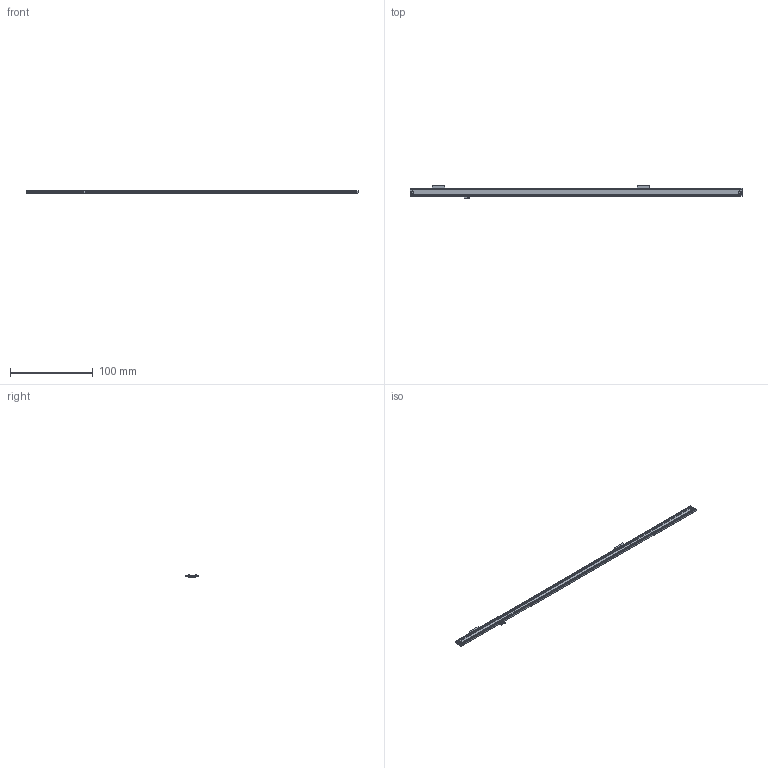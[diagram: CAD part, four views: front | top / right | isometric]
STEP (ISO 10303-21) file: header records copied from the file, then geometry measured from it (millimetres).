
FILE_DESCRIPTION (( 'STEP AP203' ), '1' );
FILE_NAME ('LGR-8´øµ¼¹ìRUSÕ¤³ß.STEP', '2024-03-27T06:45:01', ( '' ), ( '' ), 'SwSTEP 2.0', 'SolidWorks 2016', '' );
FILE_SCHEMA (( 'CONFIG_CONTROL_DESIGN' ));
Length unit declared in the file: millimetre
Products named in the file (9): RU2-REF-M 埻萸棠沺; RU2-LMT-R 邧癹弇棠沺; LGR-8湍絳寢RUS掑喜; 埻萸棠沺; 8mm 詩掑喜絳寢; 8掑喜; 棠沺; hex socket set screws with cone point gb_GB_FASTENER_SCREWS_HSCP M1.6X4-N; RX2-LMT-M 錨弇恁寁棠沺
Assembly tree (10 placements, depth 3):
  LGR-8湍絳寢RUS掑喜
    8mm 詩掑喜絳寢  x2
    8掑喜  x2
    RX2-LMT-M 錨弇恁寁棠沺
    RU2-LMT-R 邧癹弇棠沺
    RU2-REF-M 埻萸棠沺
      埻萸棠沺
      棠沺
      hex socket set screws with cone point gb_GB_FASTENER_SCREWS_HSCP M1.6X4-N
Bounding box: 402 x 16.7 x 2.7 mm (x, y, z)
Volume: 8808.9 mm3; surface area: 25661.1 mm2
Topology: 9 solids, 9 shells, 209 faces, 549 edges, 356 vertices
Faces by surface type: plane 140, cylinder 55, cone 10, bspline 4
Entity records: 8478 total; most frequent: CARTESIAN_POINT 4081, ORIENTED_EDGE 704, DIRECTION 704, EDGE_CURVE 352, VECTOR 256, LINE 256, VERTEX_POINT 226, AXIS2_PLACEMENT_3D 224
